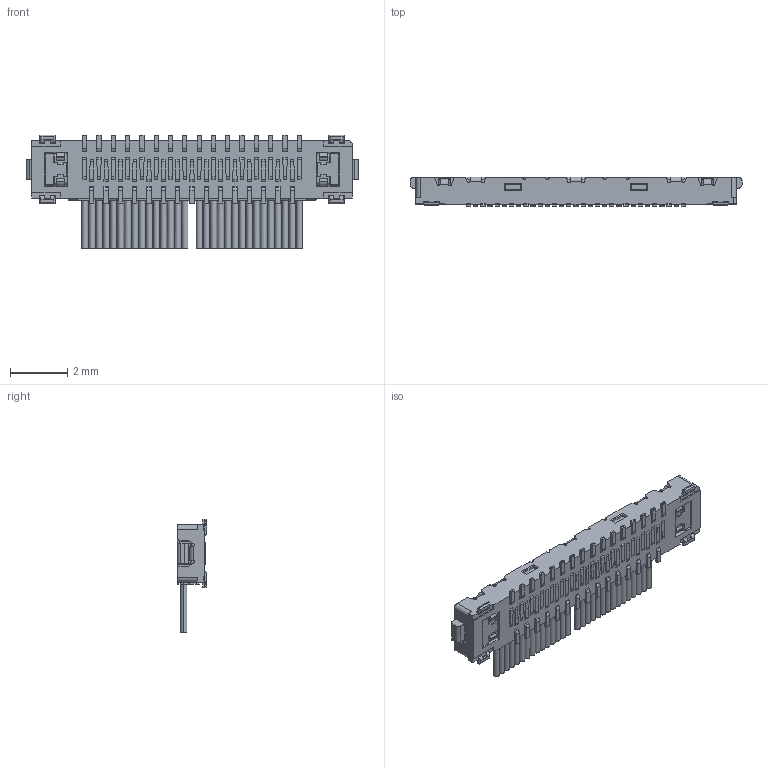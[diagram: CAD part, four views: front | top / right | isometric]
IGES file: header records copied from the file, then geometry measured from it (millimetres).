
Start section: SolidWorks IGES file using analytic representation for surfaces
Global section: file name: C:\Users\ieng2-001\Desktop\WORKING\koyanagi\20190212 CAB-UX II 30P Web model\20531-030T-02xxxC+20533-030E MATING STEP R3R1R7 ALL.IGS; native system: SolidWorks 2017; preprocessor: SolidWorks 2017; author: ieng2-001; date: 190212.101958; units: millimetre
Bounding box: 11.6 x 1.04 x 3.98 mm (x, y, z)
Surface area: 142.9 mm2 (no closed solid volume)
Topology: 0 solids, 0 shells, 1646 faces, 9539 edges, 9531 vertices
Faces by surface type: bspline 1291, revolution 355
